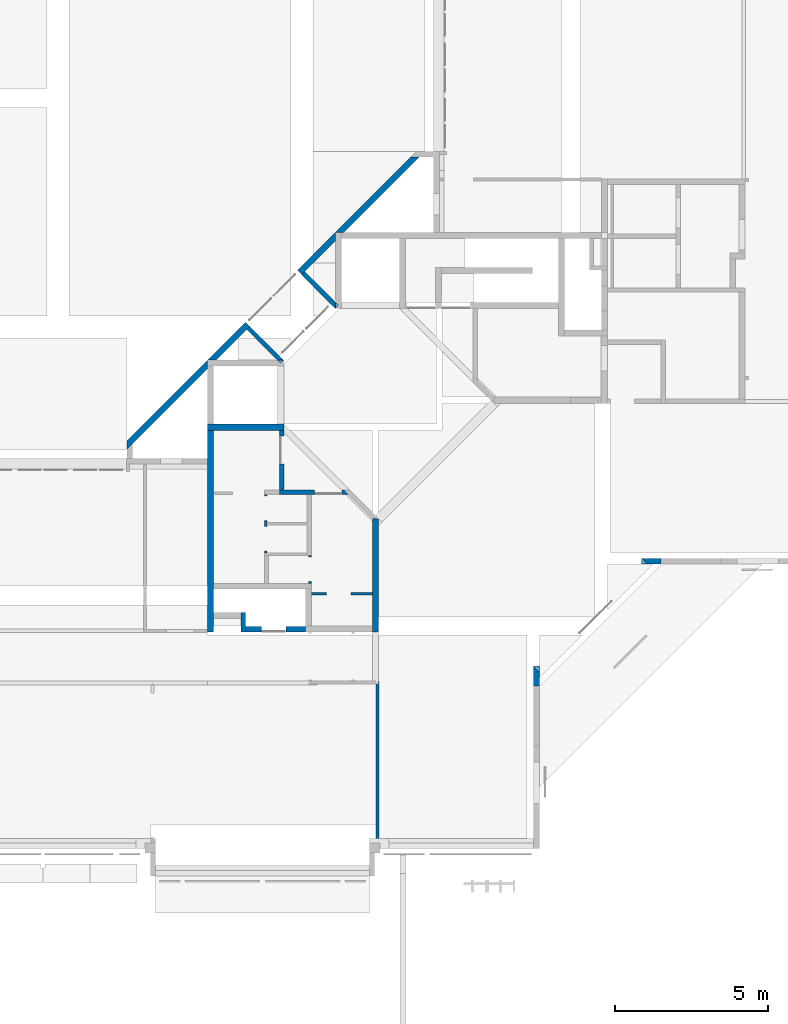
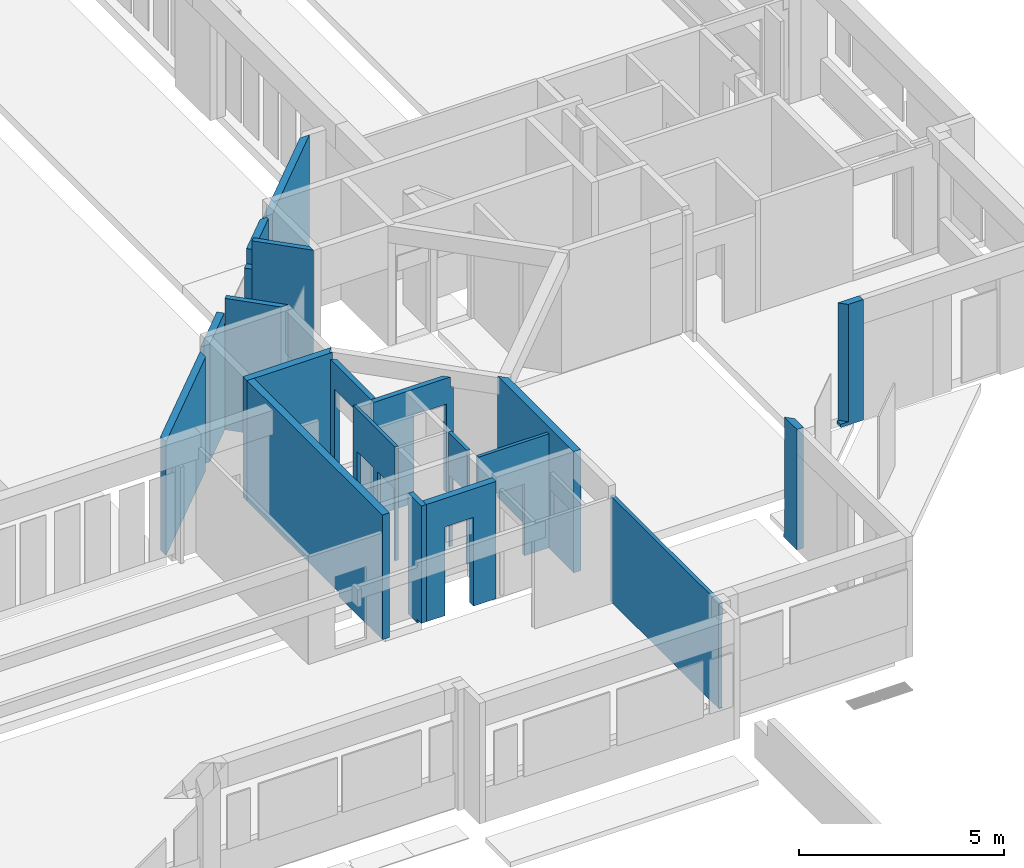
# One storey, part 27 of 30: 16 walls.
"""IFC4X3_ADD2 building model written with IfcOpenShell, lengths in millimetres."""

from ifc_helpers import new_model, si_unit, direction, frame, origin_with_axes, place, context, subcontext, project, spatial, polygons, source, transform, mapped, material, type_object, type_shapes, element, save


model = new_model("IFC4X3_ADD2")

# Units and contexts
model_context = context("Model", 3, precision=1e-05, world=origin_with_axes(), true_north=direction((0.0, 1.0)))
body_context = subcontext(model_context, "Body", "Model", "MODEL_VIEW")
ifc_project = project(units=[si_unit("LENGTHUNIT", "METRE", prefix="MILLI"), si_unit("AREAUNIT", "SQUARE_METRE"), si_unit("VOLUMEUNIT", "CUBIC_METRE"), si_unit("PLANEANGLEUNIT", "RADIAN"), si_unit("TIMEUNIT", "SECOND"), si_unit("MASSUNIT", "GRAM")], contexts=[model_context])

# Site, building, storey
site_placement = place(None, origin_with_axes())
site = spatial("IfcSite", under=ifc_project, at=site_placement, Name="Site", CompositionType="ELEMENT")
building_placement = place(site_placement, origin_with_axes())
building = spatial("IfcBuilding", under=site, at=building_placement, Name="IFC Building Story")
storey_placement = place(building_placement, origin_with_axes())
storey = spatial("IfcBuildingStorey", under=building, at=storey_placement, Name="000", Elevation=0.0)

# Walls
ifc_material = material(Name="BB_Metselwerk_Betonsteen")
wall_type_1 = type_object("IfcWallType", Name="Basic Wall_BB_03.09.24#03_Wand uit metselwerk_ 190 mm1", PredefinedType="NOTDEFINED")
shared_shape_1 = source(origin_with_axes(), body_context, "Body", "Tessellation", [
    polygons([(3740.38646711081, -95.0000000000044, 0.0), (3740.38646711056, -95.0000000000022, 3400.00000000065), (268.700576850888, -95.0000000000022, 3400.00000000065), (2.16573425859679e-12, -95.0000000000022, 3400.00000000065), (2.16573425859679e-12, -95.0000000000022, 0.0), (268.700576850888, -95.0000000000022, 0.0), (190.0, 94.9999999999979, 0.0), (3930.38646711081, 95.0, 0.0), (3796.28484163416, -39.1016254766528, 0.0), (3930.38646711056, 95.0, 3400.00000000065), (190.0, 94.9999999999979, 3400.00000000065), (3930.38646711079, 95.0000000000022, 320.0)], [[[3, 4, 5]], [[3, 5, 6]], [[6, 1, 2]], [[6, 2, 3]], [[6, 5, 7]], [[9, 1, 6]], [[9, 6, 7]], [[7, 8, 9]], [[3, 2, 10]], [[3, 10, 11]], [[11, 4, 3]], [[12, 10, 2]], [[12, 2, 9]], [[9, 8, 12]], [[2, 1, 9]], [[5, 4, 11, 7]], [[12, 8, 7]], [[7, 11, 10]], [[7, 10, 12]]]),
    polygons([(9863.87022564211, 95.0, 320.0), (9863.87022564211, 95.0, 3400.00000000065), (13349.5461184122, 95.0000000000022, 3400.00000000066), (13349.5461184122, 95.0000000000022, 0.0), (9863.50968716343, 94.9999999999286, 0.0), (9863.50968716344, 94.9999999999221, 320.0), (13539.5461184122, -95.0, 0.0), (10053.5096871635, -95.0000000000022, 0.0), (9997.61131264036, -39.101625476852, 0.0), (9997.61131263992, -39.1016254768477, 3400.00000000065), (9997.61131263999, -39.1016254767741, 320.0), (10053.5096871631, -95.0000000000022, 3400.00000000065), (9997.79158187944, -38.9213562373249, 320.0), (9997.79158187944, -38.9213562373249, 3400.00000000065), (13539.5461184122, -95.0, 3400.00000000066)], [[[1, 2, 3]], [[1, 3, 4]], [[4, 5, 1]], [[5, 6, 1]], [[9, 5, 4]], [[4, 7, 8]], [[4, 8, 9]], [[11, 6, 5]], [[11, 5, 9]], [[11, 9, 8]], [[8, 12, 10]], [[8, 10, 11]], [[13, 11, 10, 14]], [[13, 14, 2, 1]], [[15, 7, 4, 3]], [[14, 10, 12]], [[14, 12, 15]], [[14, 15, 3]], [[3, 2, 14]], [[11, 13, 1, 6]], [[12, 8, 7, 15]]]),
    polygons([(5500.58753892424, -95.0000000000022, 3069.99999997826), (5697.23441781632, -95.0, 3069.99999997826), (5697.23441781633, 94.9999999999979, 3069.99999997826), (5500.58753892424, 94.9999999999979, 3069.99999997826), (5697.23441781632, -95.0, 0.0), (5697.23441781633, 94.9999999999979, 0.0), (5500.58753892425, -95.0, 3520.0), (5500.58753892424, 94.9999999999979, 3520.0), (4135.02592863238, -95.0000000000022, 3520.0), (3945.02592863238, 95.0, 3520.0), (4135.02592863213, -95.0, 0.0), (3945.02592863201, 95.0, 0.0)], [[[1, 2, 3, 4]], [[5, 6, 3, 2]], [[7, 1, 4, 8]], [[9, 7, 8, 10]], [[11, 9, 10, 12]], [[6, 5, 11, 12]], [[4, 3, 6]], [[4, 6, 12]], [[4, 12, 10]], [[10, 8, 4]], [[1, 7, 9]], [[9, 11, 5]], [[9, 5, 1]], [[5, 2, 1]]]),
    polygons([(8100.58753892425, -95.0000000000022, 0.0), (8100.58753892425, -95.0000000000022, 3069.99999997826), (8100.58753892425, 95.0, 3069.99999997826), (8100.58753892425, 95.0, 0.0), (9848.50968716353, 95.0, 320.0), (9714.588330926, -38.9213562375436, 320.0), (9714.76860016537, -39.1016254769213, 320.0), (9848.87022564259, 95.0000000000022, 320.0), (9714.588330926, -38.9213562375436, 3400.00000000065), (9848.50968716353, 95.0, 3400.00000000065), (9658.87022564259, -95.0, 0.0), (9848.87022564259, 95.0000000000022, 0.0), (9714.7686001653, -39.1016254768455, 3520.00000000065), (9658.87022564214, -95.0, 3520.00000000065), (9580.66697468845, 95.0, 3520.00000000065), (8297.03771598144, 95.0, 3520.00000000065), (8297.03771598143, -95.0000000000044, 3520.00000000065), (8297.03771598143, -95.0000000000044, 3069.99999997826), (8297.03771598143, 95.0000000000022, 3069.99999997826), (9580.66697468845, 95.0, 3400.00000000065)], [[[1, 2, 3, 4]], [[5, 6, 7, 8]], [[9, 6, 5, 10]], [[7, 13, 14]], [[7, 14, 11]], [[11, 12, 8]], [[11, 8, 7]], [[15, 16, 17]], [[15, 17, 14]], [[15, 14, 13]], [[18, 17, 16, 19]], [[2, 18, 19, 3]], [[9, 20, 15]], [[9, 15, 13]], [[9, 13, 7]], [[7, 6, 9]], [[10, 20, 9]], [[1, 4, 12, 11]], [[20, 10, 19]], [[19, 16, 15]], [[19, 15, 20]], [[5, 8, 12]], [[5, 12, 4]], [[4, 19, 10]], [[4, 10, 5]], [[4, 3, 19]], [[18, 2, 1]], [[18, 1, 11]], [[18, 11, 14]], [[14, 17, 18]]]),
])
type_shapes(wall_type_1, [shared_shape_1])
wall_1_placement = place(storey_placement, frame((-22812.0277793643, 13058.2702696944, -400.0), z_axis=(0.0, 0.0, 1.0), x_axis=(0.7071067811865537, 0.7071067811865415, 0.0)))
element("IfcWall", 1, at=wall_1_placement, inside=storey, type_object=wall_type_1, material=ifc_material, Name="Basic Wall:BB_03.09.24#03_Wand uit metselwerk, 190 mm", ObjectType="Basic Wall:BB_03.09.24#03_Wand uit metselwerk, 190 mm", PredefinedType="SOLIDWALL", context=body_context, shape_type="MappedRepresentation", body=[
    mapped(shared_shape_1, transform((0.0, 0.0, 0.0))),
])
wall_type_2 = type_object("IfcWallType", Name="Basic Wall_BB_10.01.41#21_Gipskartonwand_EI60_43dB_MS100 _ 25.50.25_ 100 mm17", PredefinedType="NOTDEFINED")
shared_shape_2 = source(origin_with_axes(), body_context, "Body", "Tessellation", [
    polygons([(-1.08286712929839e-12, 49.9999999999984, 0.0), (5305.00000000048, 49.9999999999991, 0.0), (5305.00000000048, 37.4999999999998, 0.0), (-1.08286712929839e-12, 37.4999999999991, 0.0), (5305.00000000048, 49.9999999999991, 9.99999999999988), (5305.00000000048, 37.4999999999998, 9.99999999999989), (5130.00000000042, 49.9999999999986, 3150.0), (-1.08286712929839e-12, 49.9999999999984, 3150.0), (-1.08286712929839e-12, 37.4999999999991, 3150.0), (5305.00000000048, 37.4999999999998, 3150.0), (5305.00000000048, 49.9999999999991, 3150.0), (5155.00000000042, 49.9999999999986, 3150.0), (5155.00000000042, 49.9999999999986, 2665.0), (5280.0000000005, 49.9999999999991, 2665.0), (5280.0000000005, 37.4999999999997, 2665.0), (5155.00000000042, 37.4999999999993, 2665.0), (5280.00000000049, 49.9999999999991, 2650.0), (5155.00000000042, 49.9999999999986, 2650.0), (5155.00000000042, 37.4999999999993, 2650.0), (5280.00000000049, 37.4999999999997, 2650.0), (5280.00000000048, 49.9999999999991, 9.99999999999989), (5280.00000000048, 37.4999999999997, 9.99999999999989), (5305.00000000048, 49.9999999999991, 2650.0), (5305.00000000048, 37.4999999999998, 2650.0)], [[[1, 2, 3, 4]], [[2, 5, 6, 3]], [[7, 8, 9]], [[9, 10, 7]], [[12, 7, 10]], [[10, 11, 12]], [[8, 1, 4, 9]], [[13, 14, 15, 16]], [[17, 18, 19, 20]], [[18, 13, 16, 19]], [[14, 17, 20, 15]], [[21, 17, 20, 22]], [[5, 21, 22, 6]], [[17, 23, 24, 20]], [[23, 11, 10, 24]], [[15, 20, 24]], [[15, 24, 10]], [[10, 16, 15]], [[16, 10, 9]], [[9, 19, 16]], [[19, 9, 4]], [[19, 4, 22]], [[22, 20, 19]], [[4, 3, 22]], [[3, 6, 22]], [[14, 13, 12]], [[14, 12, 11]], [[11, 23, 14]], [[23, 17, 14]], [[13, 7, 12]], [[18, 17, 21]], [[21, 5, 2]], [[21, 2, 1]], [[1, 8, 18]], [[1, 18, 21]], [[8, 13, 18]], [[8, 7, 13]]]),
    polygons([(0.0, 25.000000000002, 0.0), (-1.08286712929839e-12, 37.4999999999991, 0.0), (5305.00000000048, 37.4999999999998, 0.0), (5305.00000000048, 25.0000000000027, 0.0), (5305.00000000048, 25.0000000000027, 2650.0), (5305.00000000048, 37.4999999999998, 2650.0), (5305.00000000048, 37.4999999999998, 3150.0), (5305.00000000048, 25.0000000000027, 3150.0), (-1.08286712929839e-12, 37.4999999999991, 3150.0), (0.0, 25.000000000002, 3150.0), (5280.0000000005, 37.4999999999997, 2665.0), (5280.0000000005, 25.0000000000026, 2665.0), (5155.00000000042, 25.0000000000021, 2665.0), (5155.00000000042, 37.4999999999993, 2665.0), (5155.00000000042, 37.4999999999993, 2650.0), (5155.00000000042, 25.0000000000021, 2650.0), (5280.00000000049, 24.9999999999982, 2650.0), (5280.00000000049, 37.4999999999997, 2650.0), (5280.00000000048, 25.0000000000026, 9.99999999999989), (5280.00000000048, 37.4999999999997, 9.99999999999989), (5305.00000000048, 25.0000000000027, 9.99999999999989), (5305.00000000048, 37.4999999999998, 9.99999999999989)], [[[1, 2, 3, 4]], [[5, 6, 7, 8]], [[8, 7, 9, 10]], [[2, 1, 10, 9]], [[11, 12, 13, 14]], [[15, 16, 17, 18]], [[14, 13, 16, 15]], [[12, 11, 18, 17]], [[18, 17, 19, 20]], [[21, 22, 20, 19]], [[6, 5, 17, 18]], [[4, 3, 22, 21]], [[20, 22, 3]], [[20, 3, 2]], [[2, 15, 18]], [[2, 18, 20]], [[2, 14, 15]], [[2, 9, 7]], [[2, 7, 14]], [[7, 11, 14]], [[7, 6, 11]], [[6, 18, 11]], [[12, 17, 5]], [[12, 5, 8]], [[8, 13, 12]], [[13, 8, 10]], [[10, 16, 13]], [[16, 10, 1]], [[16, 1, 19]], [[19, 17, 16]], [[1, 4, 19]], [[4, 21, 19]]]),
    polygons([(0.0, -25.0000000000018, 0.0), (0.0, 25.000000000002, 0.0), (5305.00000000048, 25.0000000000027, 0.0), (5305.00000000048, -25.0000000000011, 0.0), (5305.00000000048, -25.0000000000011, 2650.0), (5305.00000000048, 25.0000000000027, 2650.0), (5305.00000000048, 25.0000000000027, 3150.0), (5305.00000000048, -25.0000000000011, 3150.0), (0.0, 25.000000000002, 3150.0), (0.0, -25.0000000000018, 3150.0), (5280.0000000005, 25.0000000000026, 2665.0), (5280.0000000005, -25.0000000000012, 2665.0), (5155.00000000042, -25.0000000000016, 2665.0), (5155.00000000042, 25.0000000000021, 2665.0), (5155.00000000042, 25.0000000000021, 2650.0), (5155.00000000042, -25.0000000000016, 2650.0), (5280.00000000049, -25.0000000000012, 2650.0), (5280.00000000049, 24.9999999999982, 2650.0), (5280.00000000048, -25.0000000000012, 9.99999999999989), (5280.00000000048, 25.0000000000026, 9.99999999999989), (5305.00000000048, -25.0000000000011, 9.99999999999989), (5305.00000000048, 25.0000000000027, 9.99999999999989)], [[[1, 2, 3, 4]], [[5, 6, 7, 8]], [[8, 7, 9, 10]], [[2, 1, 10, 9]], [[11, 12, 13, 14]], [[15, 16, 17, 18]], [[14, 13, 16, 15]], [[12, 11, 18, 17]], [[18, 17, 19, 20]], [[21, 22, 20, 19]], [[6, 5, 17, 18]], [[4, 3, 22, 21]], [[20, 22, 3]], [[20, 3, 2]], [[2, 15, 18]], [[2, 18, 20]], [[2, 14, 15]], [[2, 9, 7]], [[2, 7, 14]], [[7, 11, 14]], [[7, 6, 11]], [[6, 18, 11]], [[12, 17, 5]], [[12, 5, 8]], [[8, 13, 12]], [[13, 8, 10]], [[10, 16, 13]], [[16, 10, 1]], [[16, 1, 19]], [[19, 17, 16]], [[1, 4, 19]], [[4, 21, 19]]]),
    polygons([(0.0, -37.5000000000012, 0.0), (0.0, -25.0000000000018, 0.0), (5305.00000000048, -25.0000000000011, 0.0), (5305.00000000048, -37.5000000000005, 0.0), (5305.00000000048, -37.5000000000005, 2650.0), (5305.00000000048, -25.0000000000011, 2650.0), (5305.00000000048, -25.0000000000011, 3150.0), (5305.00000000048, -37.5000000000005, 3150.0), (0.0, -25.0000000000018, 3150.0), (0.0, -37.5000000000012, 3150.0), (5280.0000000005, -25.0000000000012, 2665.0), (5280.0000000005, -37.5000000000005, 2665.0), (5155.00000000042, -37.500000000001, 2665.0), (5155.00000000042, -25.0000000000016, 2665.0), (5155.00000000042, -25.0000000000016, 2650.0), (5155.00000000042, -37.500000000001, 2650.0), (5280.00000000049, -37.5000000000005, 2650.0), (5280.00000000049, -25.0000000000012, 2650.0), (5280.00000000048, -37.5000000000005, 9.99999999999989), (5280.00000000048, -25.0000000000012, 9.99999999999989), (5305.00000000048, -37.5000000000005, 9.99999999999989), (5305.00000000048, -25.0000000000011, 9.99999999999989)], [[[1, 2, 3, 4]], [[5, 6, 7, 8]], [[8, 7, 9, 10]], [[2, 1, 10, 9]], [[11, 12, 13, 14]], [[15, 16, 17, 18]], [[14, 13, 16, 15]], [[12, 11, 18, 17]], [[18, 17, 19, 20]], [[21, 22, 20, 19]], [[6, 5, 17, 18]], [[4, 3, 22, 21]], [[20, 22, 3]], [[20, 3, 2]], [[2, 15, 18]], [[2, 18, 20]], [[2, 14, 15]], [[2, 9, 7]], [[2, 7, 14]], [[7, 11, 14]], [[7, 6, 11]], [[6, 18, 11]], [[12, 17, 5]], [[12, 5, 8]], [[8, 13, 12]], [[13, 8, 10]], [[10, 16, 13]], [[16, 10, 1]], [[16, 1, 19]], [[19, 17, 16]], [[1, 4, 19]], [[4, 21, 19]]]),
    polygons([(5305.00000000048, -37.5000000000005, 0.0), (0.0, -37.5000000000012, 0.0), (0.0, -37.5000000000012, 3150.0), (5305.00000000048, -37.5000000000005, 3150.0), (5305.00000000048, -37.5000000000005, 2650.0), (5280.00000000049, -37.5000000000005, 2650.0), (5280.0000000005, -37.5000000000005, 2665.0), (5155.00000000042, -37.500000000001, 2665.0), (5155.00000000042, -37.500000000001, 2650.0), (5280.00000000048, -37.5000000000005, 9.99999999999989), (5305.00000000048, -37.5000000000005, 9.99999999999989), (0.0, -49.9999999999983, 0.0), (100.000000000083, -50.0, 0.0), (5305.00000000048, -49.9999999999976, 0.0), (5305.00000000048, -49.9999999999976, 9.99999999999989), (5280.00000000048, -49.9999999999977, 9.99999999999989), (5280.00000000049, -50.000000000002, 2650.0), (5155.00000000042, -49.9999999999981, 2650.0), (5155.00000000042, -49.9999999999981, 2665.0), (5280.0000000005, -49.9999999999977, 2665.0), (5305.00000000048, -49.9999999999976, 2650.0), (5305.00000000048, -49.9999999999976, 3150.0), (5155.00000000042, -50.0, 3150.0), (5130.00000000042, -50.0, 3150.0), (100.000000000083, -50.0, 3150.0), (0.0, -49.9999999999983, 3150.0)], [[[10, 11, 1]], [[10, 1, 2]], [[2, 9, 6]], [[2, 6, 10]], [[2, 8, 9]], [[2, 3, 4]], [[2, 4, 8]], [[4, 7, 8]], [[4, 5, 7]], [[5, 6, 7]], [[20, 17, 21]], [[23, 24, 19]], [[20, 21, 22]], [[22, 23, 19]], [[22, 19, 20]], [[19, 24, 25]], [[25, 18, 19]], [[18, 25, 13]], [[18, 13, 16]], [[16, 17, 18]], [[13, 14, 16]], [[14, 15, 16]], [[25, 26, 12]], [[25, 12, 13]], [[13, 12, 2]], [[2, 1, 14]], [[2, 14, 13]], [[15, 14, 1, 11]], [[23, 22, 4]], [[24, 23, 4]], [[24, 4, 3]], [[3, 25, 24]], [[3, 26, 25]], [[12, 26, 3, 2]], [[20, 19, 8, 7]], [[18, 17, 6, 9]], [[19, 18, 9, 8]], [[17, 20, 7, 6]], [[17, 16, 10, 6]], [[16, 15, 11, 10]], [[21, 17, 6, 5]], [[22, 21, 5, 4]]]),
])
type_shapes(wall_type_2, [shared_shape_2])
wall_2_placement = place(storey_placement, frame((-14535.0, 5400.0, -10.0), z_axis=(0.0, 0.0, 1.0), x_axis=(0.0, -1.0, 0.0)))
element("IfcWall", 2, at=wall_2_placement, inside=storey, type_object=wall_type_2, Name="Basic Wall:BB_10.01.41#21_Gipskartonwand_EI60_43dB_MS100 / 25.50.25, 100 mm", ObjectType="Basic Wall:BB_10.01.41#21_Gipskartonwand_EI60_43dB_MS100 / 25.50.25, 100 mm", PredefinedType="PARTITIONING", context=body_context, shape_type="MappedRepresentation", body=[
    mapped(shared_shape_2, transform((0.0, 0.0, 0.0))),
])
wall_3_placement = place(storey_placement, origin_with_axes())
element("IfcWall", 3, at=wall_3_placement, inside=storey, Name="Basic Wall:BB_XX_Wand uit beton, 200 mm", ObjectType="Basic Wall:BB_XX_Wand uit beton, 200 mm", PredefinedType="SOLIDWALL", context=body_context, shape_type="Tessellation", body=[
    polygons([(-17600.0, 13815.0, -79.99999999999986), (-19899.99999999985, 13815.0, -79.99999999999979), (-20099.99999999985, 13815.0, -79.99999999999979), (-20099.99999999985, 13815.0, 3520.0), (-19899.99999999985, 13815.0, 3520.0), (-17602.52860978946, 13815.0, 3520.0), (-17602.52860978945, 13815.0, 3020.0), (-17600.0, 13815.0, 3020.0), (-20099.99999999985, 13615.0, -79.99999999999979), (-17600.0, 13615.0, -79.99999999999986), (-17600.0, 13615.0, 3020.0), (-17682.84271247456, 13615.0, 3020.0), (-17682.84271247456, 13615.0, 3520.0), (-20099.99999999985, 13615.0, 3520.0), (-17742.68566113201, 13674.84294865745, 3520.0), (-17742.68566113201, 13674.84294865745, 3020.0)], [[[2, 3, 4]], [[2, 4, 5]], [[7, 8, 1]], [[7, 1, 2]], [[7, 2, 5]], [[5, 6, 7]], [[12, 13, 14]], [[14, 9, 10]], [[14, 10, 12]], [[10, 11, 12]], [[2, 1, 10]], [[2, 10, 9]], [[9, 3, 2]], [[5, 4, 14]], [[14, 15, 6]], [[14, 6, 5]], [[14, 13, 15]], [[10, 1, 8, 11]], [[15, 16, 7, 6]], [[16, 15, 13, 12]], [[7, 16, 12]], [[7, 12, 11]], [[7, 11, 8]], [[4, 3, 9, 14]]]),
])
wall_4_placement = place(storey_placement, origin_with_axes())
element("IfcWall", 4, at=wall_4_placement, inside=storey, Name="Basic Wall:BB_XX_Wand uit beton, 200 mm", ObjectType="Basic Wall:BB_XX_Wand uit beton, 200 mm", PredefinedType="SOLIDWALL", context=body_context, shape_type="Tessellation", body=[
    polygons([(-20100.0, 13615.0, -80.0), (-20100.0, 9120.0000000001, -80.0), (-20100.0, 9120.0000000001, -200.0), (-20100.0, 7000.0, -200.0), (-20100.0, 7000.0, 3520.0), (-20100.0, 13615.0, 3520.0), (-19900.0, 13615.0, -80.0), (-19900.0, 13615.0, 3520.0), (-19900.0, 7000.0, 3520.0), (-19900.0, 7000.0, -200.0), (-19900.0, 9120.0000000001, -200.0), (-19900.0, 9120.0000000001, -80.0)], [[[2, 3, 4]], [[2, 4, 5]], [[5, 6, 1]], [[5, 1, 2]], [[12, 7, 8]], [[12, 8, 9]], [[9, 10, 12]], [[10, 11, 12]], [[1, 6, 8, 7]], [[2, 1, 7, 12]], [[5, 4, 10, 9]], [[6, 5, 9, 8]], [[3, 2, 12, 11]], [[4, 3, 11, 10]]]),
])
wall_5_placement = place(storey_placement, origin_with_axes())
element("IfcWall", 5, at=wall_5_placement, inside=storey, Name="Basic Wall:BB_XX_Wand uit beton, 200 mm", ObjectType="Basic Wall:BB_XX_Wand uit beton, 200 mm", PredefinedType="SOLIDWALL", context=body_context, shape_type="Tessellation", body=[
    polygons([(-14700.0, 10717.0101012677, -100.0), (-14700.0, 7199.99999999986, -100.0), (-14700.0, 6999.99999999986, -100.0), (-14700.0, 6999.99999999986, 3520.0), (-14700.0, 7199.99999999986, 3520.0), (-14700.0, 10717.0101012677, 3520.0), (-14500.0, 6999.99999999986, -100.0), (-14500.0, 10714.99999999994, -100.0), (-14500.0, 10714.99999999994, 3020.0), (-14500.0, 10519.9624919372, 3020.0), (-14500.0, 10519.9624919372, 3520.0), (-14500.0, 6999.99999999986, 3520.0), (-14696.32396926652, 10716.28646120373, 3520.0), (-14695.64410812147, 10716.96632234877, 3520.0), (-14695.64410812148, 10716.96632234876, 3020.0), (-14696.32396926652, 10716.28646120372, 3020.0)], [[[2, 3, 4]], [[2, 4, 5]], [[5, 6, 1]], [[5, 1, 2]], [[10, 11, 12]], [[12, 7, 8]], [[12, 8, 10]], [[8, 9, 10]], [[2, 1, 8]], [[2, 8, 7]], [[7, 3, 2]], [[5, 4, 12]], [[13, 14, 6]], [[6, 5, 12]], [[6, 12, 11]], [[6, 11, 13]], [[15, 9, 8]], [[15, 8, 1]], [[1, 6, 15]], [[6, 14, 15]], [[16, 13, 11, 10]], [[16, 10, 9, 15]], [[4, 3, 7, 12]], [[13, 16, 15, 14]]]),
])
wall_6_placement = place(storey_placement, origin_with_axes())
element("IfcWall", 6, at=wall_6_placement, inside=storey, Name="Basic Wall:BB_XX_Wand uit metselwerk, 140 mm", ObjectType="Basic Wall:BB_XX_Wand uit metselwerk, 140 mm", PredefinedType="SOLIDWALL", context=body_context, shape_type="Tessellation", body=[
    polygons([(-17740.0, 11650.00000000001, 3320.0), (-17740.0, 13615.0, 3320.0), (-17740.0, 13615.0, -79.99999999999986), (-17740.0, 13424.99999999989, -79.99999999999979), (-17740.0, 13424.99999999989, 2550.0), (-17740.0, 12514.99999999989, 2550.0), (-17740.0, 12514.99999999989, -79.99999999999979), (-17740.0, 11650.00000000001, -79.99999999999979), (-17600.0, 11650.00000000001, 3320.0), (-17600.0, 11650.00000000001, -79.99999999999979), (-17600.0, 12514.99999999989, -79.99999999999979), (-17600.0, 12514.99999999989, 2550.0), (-17600.0, 13424.99999999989, 2550.0), (-17600.0, 13424.99999999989, -79.99999999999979), (-17600.0, 13615.0, -79.99999999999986), (-17600.0, 13615.0, 3020.0), (-17600.0, 13532.15728752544, 3020.0), (-17600.0, 13532.15728752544, 3320.0), (-17682.84271247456, 13615.0, 3320.0), (-17682.84271247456, 13615.0, 3020.0)], [[[6, 7, 8]], [[6, 8, 1]], [[1, 2, 5]], [[1, 5, 6]], [[2, 3, 4]], [[2, 4, 5]], [[13, 14, 15]], [[13, 15, 16]], [[13, 16, 17]], [[17, 18, 9]], [[17, 9, 12]], [[17, 12, 13]], [[9, 10, 11]], [[9, 11, 12]], [[3, 15, 14, 4]], [[2, 1, 9]], [[2, 9, 18]], [[2, 18, 19]], [[20, 16, 15]], [[20, 15, 3]], [[3, 2, 20]], [[2, 19, 20]], [[1, 8, 10, 9]], [[17, 20, 19, 18]], [[20, 17, 16]], [[12, 6, 5, 13]], [[13, 5, 4, 14]], [[6, 12, 11, 7]], [[10, 8, 7, 11]]]),
])
wall_7_placement = place(storey_placement, origin_with_axes())
element("IfcWall", 7, at=wall_7_placement, inside=storey, Name="Basic Wall:BB_XX_Wand uit metselwerk, 190 mm", ObjectType="Basic Wall:BB_XX_Wand uit metselwerk, 190 mm", PredefinedType="SOLIDWALL", context=body_context, shape_type="Tessellation", body=[
    polygons([(-18860.16407905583, 7189.999999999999, 3400.0), (-16890.0, 7190.0, 3400.0), (-16890.0, 7190.0, -100.0), (-17525.08203952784, 7190.0, -100.0), (-17525.08203952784, 7190.000000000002, 2550.00000000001), (-18335.08203952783, 7190.0, 2550.00000000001), (-18335.08203952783, 7190.0, -100.0), (-18860.16407905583, 7189.999999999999, -100.0), (-16890.0, 7000.0, 3400.0), (-18860.16407905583, 6999.999999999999, 3400.0), (-18860.16407905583, 6999.999999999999, -100.0), (-18335.08203952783, 7000.0, -100.0), (-18335.08203952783, 7000.0, 2550.00000000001), (-17525.08203952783, 7000.0, 2550.00000000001), (-17525.08203952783, 7000.0, -100.0), (-16890.0, 7000.0, -100.0)], [[[6, 7, 8]], [[6, 8, 1]], [[1, 2, 5]], [[1, 5, 6]], [[2, 3, 4]], [[2, 4, 5]], [[14, 15, 16]], [[14, 16, 9]], [[9, 10, 13]], [[9, 13, 14]], [[10, 11, 12]], [[10, 12, 13]], [[3, 16, 15, 4]], [[2, 1, 10, 9]], [[3, 2, 9, 16]], [[1, 8, 11, 10]], [[13, 6, 5, 14]], [[14, 5, 4, 15]], [[6, 13, 12, 7]], [[11, 8, 7, 12]]]),
])
wall_8_placement = place(storey_placement, origin_with_axes())
element("IfcWall", 8, at=wall_8_placement, inside=storey, Name="Basic Wall:BB_XX_Wand uit metselwerk, 140 mm", ObjectType="Basic Wall:BB_XX_Wand uit metselwerk, 140 mm", PredefinedType="SOLIDWALL", context=body_context, shape_type="Tessellation", body=[
    polygons([(-18860.1640790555, 7639.999999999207, 3400.0), (-18860.1640790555, 7190.0, 3400.0), (-18860.1640790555, 6999.999999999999, 3400.0), (-18860.1640790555, 6999.999999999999, -100.0), (-18860.1640790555, 7190.0, -100.0), (-18860.1640790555, 7200.000000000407, -100.0), (-18860.1640790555, 7200.000000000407, -200.0), (-18860.1640790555, 7639.999999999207, -200.0), (-19000.1640790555, 6999.999999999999, 3400.0), (-19000.1640790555, 7449.999999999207, 3400.0), (-19000.1640790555, 7639.999999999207, 3400.0), (-19000.1640790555, 7639.999999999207, -200.0), (-19000.1640790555, 7449.999999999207, -200.0), (-19000.1640790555, 7200.000000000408, -200.0), (-19000.1640790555, 7200.000000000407, -100.0), (-19000.1640790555, 6999.999999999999, -100.0)], [[[2, 3, 4]], [[2, 4, 5]], [[6, 7, 8]], [[8, 1, 2]], [[8, 2, 6]], [[2, 5, 6]], [[10, 11, 12]], [[10, 12, 13]], [[15, 16, 9]], [[9, 10, 13]], [[9, 13, 15]], [[13, 14, 15]], [[13, 12, 8]], [[8, 7, 14]], [[8, 14, 13]], [[10, 9, 2]], [[10, 2, 1]], [[1, 11, 10]], [[9, 3, 2]], [[3, 9, 16, 4]], [[1, 8, 12, 11]], [[6, 15, 14, 7]], [[5, 4, 16]], [[5, 16, 15]], [[15, 6, 5]]]),
])
wall_9_placement = place(storey_placement, origin_with_axes())
element("IfcWall", 9, at=wall_9_placement, inside=storey, Name="Basic Wall:BB_XX_Wand uit metselwerk, 140 mm", ObjectType="Basic Wall:BB_XX_Wand uit metselwerk, 140 mm", PredefinedType="SOLIDWALL", context=body_context, shape_type="Tessellation", body=[
    polygons([(-17740.0, 11510.0, 3320.0), (-17740.0, 11510.0, -79.99999999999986), (-16602.00000000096, 11510.0, -79.9999999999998), (-16602.00000000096, 11510.0, 2550.0), (-15692.00000000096, 11510.0, 2550.0), (-15692.00000000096, 11510.0, -79.9999999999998), (-15492.98989873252, 11510.0, -79.9999999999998), (-15492.98989873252, 11510.0, 3020.0), (-15577.84271247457, 11510.0, 3020.0), (-15577.84271247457, 11510.0, 3320.0), (-17740.0, 11650.0, -79.99999999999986), (-17740.0, 11650.0, 3320.0), (-17600.0, 11650.0, 3320.0), (-15717.84271247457, 11650.0, 3320.0), (-15717.84271247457, 11650.0, 3020.0), (-15632.98989873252, 11650.0, 3020.0), (-15632.98989873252, 11650.0, -79.9999999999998), (-15692.00000000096, 11650.0, -79.9999999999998), (-15692.00000000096, 11650.0, 2550.0), (-16602.00000000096, 11650.0, 2550.0), (-16602.00000000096, 11650.0, -79.9999999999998), (-17600.0, 11650.0, -79.9999999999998)], [[[5, 6, 7]], [[5, 7, 8]], [[5, 8, 9]], [[9, 10, 4]], [[9, 4, 5]], [[4, 10, 1]], [[1, 2, 3]], [[1, 3, 4]], [[19, 15, 16]], [[16, 17, 18]], [[16, 18, 19]], [[20, 21, 22]], [[20, 22, 13]], [[13, 14, 20]], [[15, 19, 20]], [[20, 14, 15]], [[22, 11, 12]], [[22, 12, 13]], [[22, 21, 3]], [[22, 3, 2]], [[2, 11, 22]], [[13, 12, 1]], [[1, 10, 14]], [[1, 14, 13]], [[2, 1, 12, 11]], [[9, 15, 14, 10]], [[15, 9, 8, 16]], [[7, 17, 16, 8]], [[19, 5, 4, 20]], [[20, 4, 3, 21]], [[5, 19, 18, 6]], [[17, 7, 6, 18]]]),
])
wall_10_placement = place(storey_placement, origin_with_axes())
element("IfcWall", 10, at=wall_10_placement, inside=storey, Name="Basic Wall:BB_XX_Wand uit metselwerk, 90 mm", ObjectType="Basic Wall:BB_XX_Wand uit metselwerk, 90 mm", PredefinedType="SOLIDWALL", context=body_context, shape_type="Tessellation", body=[
    polygons([(-18150.0, 11650.00000000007, -79.99999999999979), (-18150.0, 11650.00000000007, 3320.0), (-18150.0, 9600.0, 3320.0), (-18150.0, 9600.0, -79.99999999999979), (-18150.0, 9652.000000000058, -79.99999999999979), (-18150.0, 9652.000000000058, 2060.0), (-18150.00000000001, 10458.00000000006, 2060.0), (-18150.00000000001, 10458.00000000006, -79.99999999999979), (-18150.0, 10652.00000000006, -79.99999999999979), (-18150.00000000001, 10652.00000000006, 2060.0), (-18150.0, 11458.00000000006, 2060.0), (-18150.0, 11458.00000000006, -79.99999999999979), (-18240.0, 11650.00000000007, 3320.0), (-18240.0, 11650.00000000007, -79.99999999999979), (-18240.0, 11458.00000000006, -79.99999999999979), (-18240.0, 11458.00000000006, 2060.0), (-18240.0, 10652.00000000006, 2060.0), (-18240.0, 10652.00000000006, -79.99999999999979), (-18240.0, 10458.00000000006, -79.99999999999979), (-18240.0, 10458.00000000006, 2060.0), (-18240.0, 9652.000000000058, 2060.0), (-18240.0, 9652.000000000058, -79.99999999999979), (-18240.0, 9600.0, -79.99999999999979), (-18240.0, 9600.0, 3320.0)], [[[11, 12, 1]], [[11, 1, 2]], [[2, 10, 11]], [[2, 7, 10]], [[7, 8, 9]], [[7, 9, 10]], [[2, 3, 7]], [[3, 6, 7]], [[6, 3, 4]], [[4, 5, 6]], [[21, 22, 23]], [[23, 24, 21]], [[24, 20, 21]], [[24, 17, 20]], [[17, 18, 19]], [[17, 19, 20]], [[24, 13, 17]], [[13, 16, 17]], [[13, 14, 15]], [[13, 15, 16]], [[4, 23, 22, 5]], [[2, 1, 14, 13]], [[3, 2, 13, 24]], [[4, 3, 24, 23]], [[11, 16, 15, 12]], [[17, 10, 9, 18]], [[16, 11, 10, 17]], [[7, 20, 19, 8]], [[21, 6, 5, 22]], [[20, 7, 6, 21]], [[18, 9, 8, 19]], [[14, 1, 12, 15]]]),
])
wall_11_placement = place(storey_placement, origin_with_axes())
element("IfcWall", 11, at=wall_11_placement, inside=storey, Name="Basic Wall:BB_XX_Wand uit metselwerk, 90 mm", ObjectType="Basic Wall:BB_XX_Wand uit metselwerk, 90 mm", PredefinedType="SOLIDWALL", context=body_context, shape_type="Tessellation", body=[
    polygons([(-16700.0, 9510.000000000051, -79.99999999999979), (-16700.0, 9510.000000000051, 3320.0), (-16700.0, 8600.0, 3320.0), (-16700.0, 8600.0, -79.99999999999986), (-16700.0, 8652.000000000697, -79.99999999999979), (-16700.0, 8652.000000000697, 2060.0), (-16700.0, 9458.000000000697, 2060.0), (-16700.0, 9458.000000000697, -79.99999999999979), (-16790.0, 9510.000000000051, 3320.0), (-16790.0, 9510.000000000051, -79.99999999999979), (-16790.0, 9458.000000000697, -79.99999999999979), (-16790.0, 9458.000000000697, 2060.0), (-16790.0, 8652.000000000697, 2060.0), (-16790.0, 8652.000000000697, -79.99999999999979), (-16790.0, 8600.0, -79.99999999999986), (-16790.0, 8600.0, 3320.0)], [[[7, 8, 1]], [[1, 2, 7]], [[2, 3, 6]], [[2, 6, 7]], [[6, 3, 4]], [[4, 5, 6]], [[13, 14, 15]], [[15, 16, 13]], [[16, 9, 12]], [[16, 12, 13]], [[12, 9, 10]], [[10, 11, 12]], [[4, 15, 14, 5]], [[2, 1, 10, 9]], [[3, 2, 9, 16]], [[4, 3, 16, 15]], [[13, 6, 5, 14]], [[7, 12, 11, 8]], [[6, 13, 12, 7]], [[10, 1, 8, 11]]]),
])
wall_12_placement = place(storey_placement, origin_with_axes())
element("IfcWall", 12, at=wall_12_placement, inside=storey, Name="Basic Wall:BB_XX_Wand uit metselwerk, 90 mm", ObjectType="Basic Wall:BB_XX_Wand uit metselwerk, 90 mm", PredefinedType="SOLIDWALL", context=body_context, shape_type="Tessellation", body=[
    polygons([(-14700.00000000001, 8209.999999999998, -79.99999999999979), (-14700.00000000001, 8209.999999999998, 3320.0), (-16700.1157781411, 8210.0, 3320.0), (-16700.1157781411, 8210.0, -79.99999999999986), (-16197.99999999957, 8210.0, -79.99999999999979), (-16197.99999999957, 8210.0, 2060.0), (-15391.99999999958, 8210.0, 2060.0), (-15391.99999999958, 8210.0, -79.99999999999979), (-14700.00000000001, 8300.0, 3320.0), (-14700.00000000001, 8300.0, -79.99999999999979), (-15391.99999999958, 8300.0, -79.99999999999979), (-15391.99999999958, 8300.0, 2060.0), (-16197.99999999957, 8299.999999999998, 2060.0), (-16197.99999999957, 8299.999999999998, -79.99999999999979), (-16700.1157781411, 8300.0, -79.99999999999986), (-16700.1157781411, 8300.0, 3320.0)], [[[7, 8, 1]], [[7, 1, 2]], [[2, 3, 6]], [[2, 6, 7]], [[3, 4, 5]], [[3, 5, 6]], [[13, 14, 15]], [[13, 15, 16]], [[16, 9, 12]], [[16, 12, 13]], [[9, 10, 11]], [[9, 11, 12]], [[4, 15, 14, 5]], [[2, 1, 10, 9]], [[3, 2, 9, 16]], [[4, 3, 16, 15]], [[13, 6, 5, 14]], [[7, 12, 11, 8]], [[6, 13, 12, 7]], [[10, 1, 8, 11]]]),
])
wall_13_placement = place(storey_placement, origin_with_axes())
element("IfcWall", 13, at=wall_13_placement, inside=storey, Name="Basic Wall:BB_03.09.24#02_Wand uit metselwerk_EI60_43dB, 140 mm", ObjectType="Basic Wall:BB_03.09.24#02_Wand uit metselwerk_EI60_43dB, 140 mm", PredefinedType="SOLIDWALL", context=body_context, shape_type="Tessellation", body=[
    polygons([(-16920.46543486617, 18815.1066615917, -400.0), (-16920.46543486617, 18815.1066615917, 3520.0), (-15914.99999999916, 17809.64122672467, 3520.0), (-15914.99999999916, 17809.64122672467, -80.00000000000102), (-15816.00505063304, 17710.64627735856, -80.00000000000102), (-15816.00505063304, 17710.64627735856, -99.99999999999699), (-15951.60074287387, 17846.24196959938, -99.99999999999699), (-15951.60074287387, 17846.24196959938, -400.0), (-17019.46038423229, 18716.11171222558, 3520.0), (-17019.46038423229, 18716.11171222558, -400.0), (-16050.59569224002, 17747.2470202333, -400.0), (-16050.59569224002, 17747.2470202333, -99.99999999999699), (-15914.99999999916, 17611.65132799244, -99.99999999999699), (-15914.99999999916, 17611.65132799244, -80.00000000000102), (-15914.99999999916, 17611.65132799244, 3520.0)], [[[4, 5, 6]], [[4, 6, 7]], [[7, 8, 1]], [[1, 2, 3]], [[1, 3, 7]], [[3, 4, 7]], [[12, 13, 14]], [[12, 14, 15]], [[15, 9, 10]], [[15, 10, 12]], [[10, 11, 12]], [[10, 1, 8, 11]], [[2, 1, 10, 9]], [[9, 15, 3, 2]], [[5, 14, 13, 6]], [[14, 4, 3, 15]], [[4, 14, 5]], [[7, 12, 11, 8]], [[12, 7, 6, 13]]]),
])
wall_14_placement = place(storey_placement, origin_with_axes())
element("IfcWall", 14, at=wall_14_placement, inside=storey, Name="Basic Wall:BB_03.09.24#02_Wand uit metselwerk_EI60_43dB, 140 mm", ObjectType="Basic Wall:BB_03.09.24#02_Wand uit metselwerk_EI60_43dB, 140 mm", PredefinedType="SOLIDWALL", context=body_context, shape_type="Tessellation", body=[
    polygons([(-18716.44138119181, 17019.79005321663, -400.0), (-18716.44138119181, 17019.79005321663, 3520.0), (-17611.65132797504, 15914.99999999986, 3520.0), (-17611.65132797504, 15914.99999999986, -80.00000000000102), (-17611.65132797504, 15914.99999999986, -99.99999999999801), (-17747.24702022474, 16050.59569224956, -99.99999999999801), (-17747.24702022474, 16050.59569224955, -400.0), (-18815.43633055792, 16920.79510385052, 3520.0), (-18815.43633055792, 16920.79510385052, -400.0), (-17846.24196959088, 15951.60074288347, -400.0), (-17846.24196959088, 15951.60074288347, -99.99999999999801), (-17710.64627734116, 15816.00505063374, -99.99999999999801), (-17710.64627734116, 15816.00505063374, -80.00000000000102), (-17809.64122670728, 15914.99999999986, -80.00000000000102), (-17809.64122670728, 15914.99999999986, 3520.0)], [[[4, 5, 6]], [[6, 7, 1]], [[6, 1, 2]], [[6, 2, 3]], [[3, 4, 6]], [[11, 12, 13]], [[11, 13, 14]], [[14, 15, 8]], [[14, 8, 9]], [[14, 9, 11]], [[9, 10, 11]], [[9, 1, 7, 10]], [[2, 1, 9, 8]], [[3, 2, 8, 15]], [[4, 13, 12, 5]], [[14, 4, 3, 15]], [[4, 14, 13]], [[6, 11, 10, 7]], [[11, 6, 5, 12]]]),
])
wall_15_placement = place(storey_placement, origin_with_axes())
element("IfcWall", 15, at=wall_15_placement, inside=storey, Name="Basic Wall:BB_03.09.24#03_Wand uit metselwerk, 190 mm", ObjectType="Basic Wall:BB_03.09.24#03_Wand uit metselwerk, 190 mm", PredefinedType="SOLIDWALL", context=body_context, shape_type="Tessellation", body=[
    polygons([(-5880.0, 9225.0, -200.0), (-5240.000000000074, 9225.000000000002, -200.0), (-5240.000000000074, 9225.000000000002, 3400.0), (-5664.717356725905, 9224.999999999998, 3400.0), (-5664.717356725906, 9225.0, -99.999999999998), (-5880.0, 9225.0, -99.999999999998), (-5240.000000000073, 9415.000000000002, -200.0), (-5879.999999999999, 9415.0, -200.0), (-5879.999999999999, 9415.0, -99.999999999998), (-5854.717356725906, 9415.0, -99.999999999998), (-5854.717356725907, 9415.0, 3400.0), (-5240.000000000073, 9415.000000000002, 3400.0)], [[[5, 6, 1]], [[5, 1, 2]], [[2, 3, 4]], [[2, 4, 5]], [[10, 11, 12]], [[10, 12, 7]], [[7, 8, 10]], [[8, 9, 10]], [[2, 1, 8, 7]], [[3, 2, 7, 12]], [[3, 12, 11, 4]], [[8, 1, 6, 9]], [[5, 10, 9, 6]], [[10, 5, 4, 11]]]),
])
wall_16_placement = place(storey_placement, origin_with_axes())
element("IfcWall", 16, at=wall_16_placement, inside=storey, Name="Basic Wall:BB_03.09.24#03_Wand uit metselwerk, 190 mm", ObjectType="Basic Wall:BB_03.09.24#03_Wand uit metselwerk, 190 mm", PredefinedType="SOLIDWALL", context=body_context, shape_type="Tessellation", body=[
    polygons([(-9415.0, 5890.0, -200.0), (-9415.000000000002, 5240.000000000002, -200.0), (-9415.000000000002, 5240.000000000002, 3400.0), (-9415.0, 5854.717356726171, 3400.0), (-9415.0, 5854.717356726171, -99.999999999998), (-9415.0, 5890.0, -99.999999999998), (-9225.000000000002, 5240.000000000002, -200.0), (-9225.0, 5890.0, -200.0), (-9225.0, 5890.0, -99.999999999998), (-9225.0, 5664.717356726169, -99.999999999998), (-9225.0, 5664.71735672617, 3400.0), (-9225.000000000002, 5240.000000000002, 3400.0)], [[[5, 6, 1]], [[5, 1, 2]], [[2, 3, 4]], [[2, 4, 5]], [[10, 11, 12]], [[10, 12, 7]], [[7, 8, 10]], [[8, 9, 10]], [[2, 1, 8, 7]], [[3, 2, 7, 12]], [[3, 12, 11, 4]], [[8, 1, 6, 9]], [[5, 10, 9, 6]], [[10, 5, 4, 11]]]),
])

save(model, "model.ifc")
